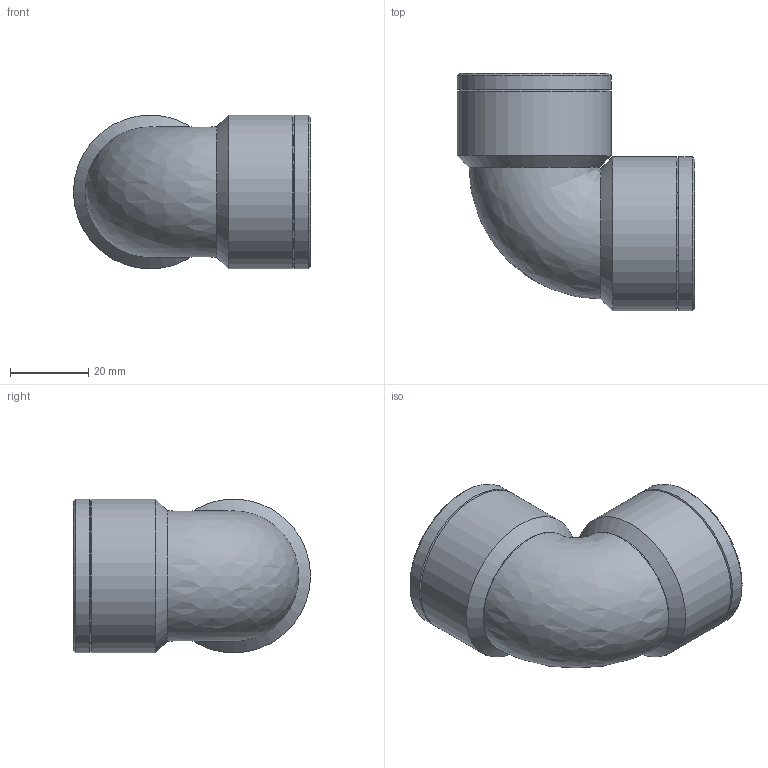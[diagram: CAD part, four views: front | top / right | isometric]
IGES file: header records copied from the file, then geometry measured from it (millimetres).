
Global section: file name: 050507010_0505070100A.ipt; native system: Autodesk Inventor 2015; preprocessor: unknown; author: KIM; date: 20170618.093214; units: millimetre
Bounding box: 60.69 x 60.69 x 39.38 mm (x, y, z)
Volume: 31068.9 mm3; surface area: 16956.3 mm2
Topology: 1 solids, 1 shells, 24 faces, 56 edges, 34 vertices
Faces by surface type: revolution 8, cone 8, cylinder 6, plane 2
Full cylindrical faces by diameter (mm): 33.32 x2, 39.378 x4
